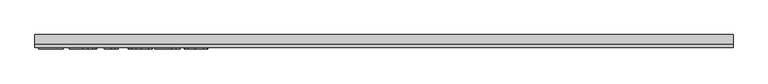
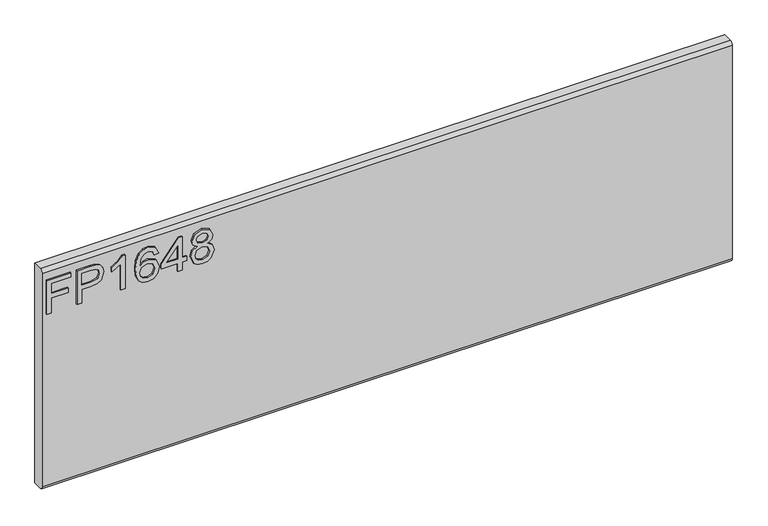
"""IFC4 building model written with IfcOpenShell, lengths in millimetres: furniture geometry."""

from ifc_helpers import new_model, si_unit, frame, origin, place, context, project, spatial, polyline, circle_curve, outline, extrude, source, transform, mapped, element, save
from ifc_brep_helpers import plane_surface, cylinder_surface, advanced_brep


def furniture_adfb5ce8(model_context):
    return source(origin(), model_context, "Body", "SolidModel", [
        extrude(outline(polyline([(882.65, -596.4115385), (882.65, -588.5961538), (910.9807692, -588.5961538), (910.9807692, -559.2884615), (918.7961538, -559.2884615), (918.7961538, -588.5961538), (937.3576923, -588.5961538), (937.3576923, -554.4038462), (945.1730769, -554.4038462), (945.1730769, -596.4115385), (882.65, -596.4115385)])), frame((0.0, -15.0812439, 0.0), z_axis=(0.0, 1.0, 0.0), x_axis=(0.0, 0.0, 1.0)), (0.0, 0.0, 1.0), 2.38125),
        extrude(outline(polyline([(882.65, -543.6576923), (882.65, -535.8423077), (908.05, -535.8423077), (908.05, -519.9520433), (909.4314303, -508.8490835), (913.5757212, -501.795012), (927.0847356, -496.7653846), (935.6099159, -498.6276442), (941.6546274, -503.5504207), (944.5777644, -511.1444712), (945.1730769, -520.4862981), (945.1730769, -543.6576923), (882.65, -543.6576923)]), holes=[polyline([(915.8653846, -535.8423077), (937.3576923, -535.8423077), (937.3576923, -519.6772837), (936.8234375, -511.861899), (933.2820913, -506.5880409), (926.809976, -504.5807692), (918.7350962, -507.9847356), (915.8653846, -519.4941106), (915.8653846, -535.8423077)])]), frame((0.0, -15.0812439, 0.0), z_axis=(0.0, 1.0, 0.0), x_axis=(0.0, 0.0, 1.0)), (0.0, 0.0, 1.0), 2.38125),
        extrude(outline(polyline([(882.65, -459.6423077), (945.1730769, -459.6423077), (945.1730769, -464.6795673), (936.8539663, -471.632512), (929.5423077, -483.0884615), (922.1543269, -483.0884615), (926.1001803, -474.8609375), (931.3740385, -467.4576923), (882.65, -467.4576923), (882.65, -459.6423077)])), frame((0.0, -15.0812439, 0.0), z_axis=(0.0, 1.0, 0.0), x_axis=(0.0, 0.0, 1.0)), (0.0, 0.0, 1.0), 2.38125),
        extrude(outline(polyline([(928.5653846, -401.0269231), (940.7616587, -406.796875), (945.1730769, -419.1457933), (943.3909555, -428.2166767), (938.0445913, -435.2192308), (927.4014724, -440.3480769), (911.8355769, -442.0576923), (897.9907452, -440.5178936), (888.6947115, -435.8984976), (883.4284856, -428.8367939), (881.6730769, -419.9700721), (884.3214543, -409.7276442), (891.9536659, -402.6296875), (902.7379808, -400.05), (917.1323317, -405.5299279), (922.7038462, -418.809976), (920.6660457, -427.3504207), (914.4305288, -434.2423077), (928.3593149, -432.0213341), (935.4649038, -426.6864183), (937.3576923, -419.6342548), (934.1063702, -411.8036058), (927.5884615, -408.8423077), (928.5653846, -401.0269231)]), holes=[polyline([(902.8600962, -434.2423077), (911.5684495, -430.357512), (914.8884615, -420.9012019), (911.5684495, -411.3227764), (902.4784856, -407.8653846), (892.9840144, -411.3685697), (889.4884615, -420.580649), (891.1751803, -427.6251803), (896.0903245, -432.4334736), (902.8600962, -434.2423077)])]), frame((0.0, -15.0812439, 0.0), z_axis=(0.0, 1.0, 0.0), x_axis=(0.0, 0.0, 1.0)), (0.0, 0.0, 1.0), 2.38125),
        extrude(outline(polyline([(882.65, -367.8115385), (882.65, -359.9961538), (897.3038462, -359.9961538), (897.3038462, -352.1807692), (905.1192308, -352.1807692), (905.1192308, -359.9961538), (944.1961538, -359.9961538), (944.1961538, -365.8576923), (905.1192308, -396.1423077), (897.3038462, -396.1423077), (897.3038462, -367.8115385), (882.65, -367.8115385)]), holes=[polyline([(905.1192308, -367.8115385), (905.1192308, -386.5257212), (929.2675481, -367.8115385), (905.1192308, -367.8115385)])]), frame((0.0, -15.0812439, 0.0), z_axis=(0.0, 1.0, 0.0), x_axis=(0.0, 0.0, 1.0)), (0.0, 0.0, 1.0), 2.38125),
        extrude(outline(polyline([(917.0865385, -333.9550481), (911.4081731, -342.3810096), (901.0588942, -345.3423077), (887.2216947, -339.6944712), (883.0602314, -333.1536659), (881.6730769, -324.8269231), (883.0545072, -316.5001803), (887.1987981, -309.959375), (900.8451923, -304.3115385), (910.9578726, -307.1583534), (917.0865385, -315.4698317), (921.9177284, -308.5474159), (929.2828125, -306.2653846), (940.5479567, -311.3942308), (945.1730769, -324.933774), (940.6548077, -338.3512019), (929.4965144, -343.3884615), (921.940625, -341.0759014), (917.0865385, -333.9550481)]), holes=[polyline([(929.2675481, -335.5730769), (934.9764423, -332.7567909), (937.3576923, -324.8269231), (934.9230168, -316.9199519), (928.9164663, -314.0807692), (923.1159856, -316.8283654), (920.75, -324.7353365), (923.13125, -332.8025841), (929.2675481, -335.5730769)]), polyline([(901.3336538, -337.5269231), (909.6222356, -334.2221755), (912.9346154, -325.0253606), (909.5764423, -315.5614183), (901.0894231, -312.1269231), (892.7626803, -315.4545673), (889.4884615, -324.7658654), (891.0454327, -331.6043269), (895.4492188, -336.2218149), (901.3336538, -337.5269231)])]), frame((0.0, -15.0812439, 0.0), z_axis=(0.0, 1.0, 0.0), x_axis=(0.0, 0.0, 1.0)), (0.0, 0.0, 1.0), 2.38125),
        advanced_brep(
        [(603.25, 9.5250061, 965.2), (603.25, -6.7309939, 965.2), (603.25, -12.6999939, 959.231), (603.25, -12.6999939, 564.769), (603.25, -6.7309939, 558.8), (603.25, 9.5250061, 558.8), (-603.25, 9.5250061, 965.2), (-603.25, 9.5250061, 558.8), (-603.25, -6.7309939, 558.8), (-603.25, -12.6999939, 564.769), (-603.25, -12.6999939, 959.2310121), (-603.25, -6.7309939, 965.2)],
        [
            (0, 1),
            (1, 2, circle_curve(frame((603.25, -6.7309939, 959.231), z_axis=(1.0, 0.0, 0.0), x_axis=(0.0, 1.0, 0.0)), 5.969)),
            (2, 3),
            (3, 4, circle_curve(frame((603.25, -6.7309939, 564.769), z_axis=(1.0, 0.0, 0.0), x_axis=(0.0, 1.0, 0.0)), 5.969)),
            (4, 5),
            (5, 0),
            (6, 7),
            (7, 8),
            (8, 9, circle_curve(frame((-603.25, -6.7309939, 564.769), z_axis=(-1.0, 0.0, 0.0), x_axis=(0.0, 1.0, 0.0)), 5.969)),
            (9, 10),
            (10, 11, circle_curve(frame((-603.25, -6.7309939, 959.231), z_axis=(-1.0, 0.0, 0.0), x_axis=(0.0, 1.0, 0.0)), 5.969)),
            (11, 6),
            (0, 6),
            (11, 1),
            (10, 2),
            (9, 3),
            (8, 4),
            (7, 5),
        ],
        [
            plane_surface(frame((603.25, -6.7309939, 965.2), z_axis=(1.0, 0.0, 0.0), x_axis=(0.0, -1.0, 0.0))),
            plane_surface(frame((-603.25, -6.7309939, 965.2), z_axis=(-1.0, 0.0, 0.0), x_axis=(0.0, 1.0, 0.0))),
            plane_surface(frame((603.25, 9.5250061, 965.2), z_axis=(0.0, 0.0, 1.0), x_axis=(-1.0, 0.0, 0.0))),
            cylinder_surface(frame((-603.25, -6.7309939, 959.231), z_axis=(1.0, 0.0, 0.0), x_axis=(0.0, 1.0, 0.0)), 5.969),
            plane_surface(frame((603.25, -12.6999939, 959.2310121), z_axis=(0.0, -1.0, 0.0), x_axis=(-1.0, 0.0, 0.0))),
            cylinder_surface(frame((-603.25, -6.7309939, 564.769), z_axis=(1.0, 0.0, 0.0), x_axis=(0.0, 1.0, 0.0)), 5.969),
            plane_surface(frame((603.25, -6.7309939, 558.8), z_axis=(0.0, 0.0, -1.0), x_axis=(-1.0, 0.0, 0.0))),
            plane_surface(frame((603.25, 9.5250061, 558.8), z_axis=(0.0, 1.0, 0.0), x_axis=(-1.0, 0.0, 0.0))),
        ],
        [
            (0, [[1, 2, 3, 4, 5, 6]]),
            (1, [[7, 8, 9, 10, 11, 12]]),
            (2, [[-1, 13, -12, 14]]),
            (3, [[-2, -14, -11, 15]]),
            (4, [[-3, -15, -10, 16]]),
            (5, [[-4, -16, -9, 17]]),
            (6, [[-5, -17, -8, 18]]),
            (7, [[-6, -18, -7, -13]]),
        ],
    ),
    ])


if __name__ == "__main__":
    model = new_model("IFC4")
    model_context = context("Model", 3, world=origin())
    ifc_project = project(units=[si_unit("LENGTHUNIT", "METRE", prefix="MILLI")], contexts=[model_context])
    site = spatial("IfcSite", under=ifc_project)
    building = spatial("IfcBuilding", under=site)
    placement = place(None, origin())
    furniture_shape = furniture_adfb5ce8(model_context)
    element("IfcFurniture", 1, ObjectType="HermanMiller_Ethospace_E1420_FaceTile : Ptd 16\"H x 48\"W", at=placement, inside=building, context=model_context, shape_type="MappedRepresentation", body=[
        mapped(furniture_shape, transform((0.0, 0.0, 0.0), x_axis=(1.0, 0.0, 0.0), y_axis=(0.0, 1.0, 0.0), z_axis=(0.0, 0.0, 1.0))),
    ])
    save(model, "model.ifc")
